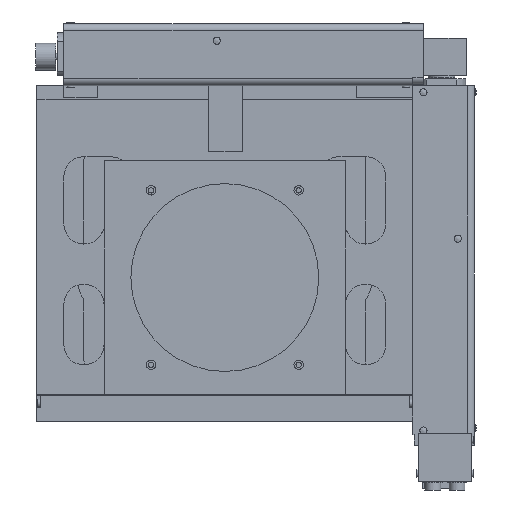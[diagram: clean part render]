
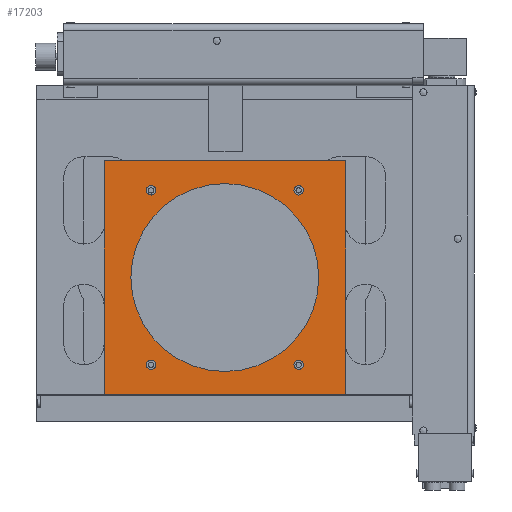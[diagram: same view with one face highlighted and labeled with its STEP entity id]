
A CAD part, front view. The second image highlights one B-rep face of the part: STEP entity #17203.
In plain terms, the highlighted planar face has unit normal (0, -1, 0).
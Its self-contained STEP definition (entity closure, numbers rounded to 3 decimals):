
#34 = AXIS2_PLACEMENT_3D ( 'NONE', #7744, #3295, #18833 ) ;
#526 = LINE ( 'NONE', #2176, #10187 ) ;
#615 = EDGE_CURVE ( 'NONE', #12475, #10850, #18296, .T. ) ;
#752 = EDGE_CURVE ( 'NONE', #5032, #15883, #8361, .T. ) ;
#755 = CARTESIAN_POINT ( 'NONE',  ( -55., -12., 68.5 ) ) ;
#880 = VERTEX_POINT ( 'NONE', #11181 ) ;
#1121 = EDGE_CURVE ( 'NONE', #1151, #14750, #20298, .T. ) ;
#1151 = VERTEX_POINT ( 'NONE', #18530 ) ;
#1190 = ORIENTED_EDGE ( 'NONE', *, *, #19385, .T. ) ;
#1294 = CARTESIAN_POINT ( 'NONE',  ( -55., -12., 61.5 ) ) ;
#1303 = CARTESIAN_POINT ( 'NONE',  ( 90., -12., 87. ) ) ;
#1354 = PLANE ( 'NONE',  #18487 ) ;
#1406 = DIRECTION ( 'NONE',  ( 0., 0., 1. ) ) ;
#1530 = ORIENTED_EDGE ( 'NONE', *, *, #4396, .T. ) ;
#1535 = DIRECTION ( 'NONE',  ( 0., 0., 1. ) ) ;
#1616 = CARTESIAN_POINT ( 'NONE',  ( 55., -12., -68.5 ) ) ;
#1681 = CARTESIAN_POINT ( 'NONE',  ( 0., -12., 0. ) ) ;
#1691 = CIRCLE ( 'NONE', #34, 3.5 ) ;
#1718 = VERTEX_POINT ( 'NONE', #10788 ) ;
#1849 = EDGE_CURVE ( 'NONE', #10596, #15678, #17431, .T. ) ;
#1875 = DIRECTION ( 'NONE',  ( 0., 1., 0. ) ) ;
#2004 = ORIENTED_EDGE ( 'NONE', *, *, #752, .T. ) ;
#2154 = ORIENTED_EDGE ( 'NONE', *, *, #13583, .F. ) ;
#2176 = CARTESIAN_POINT ( 'NONE',  ( -90., -12., 87. ) ) ;
#2370 = VERTEX_POINT ( 'NONE', #1294 ) ;
#2395 = CARTESIAN_POINT ( 'NONE',  ( 55., -12., 61.5 ) ) ;
#2499 = VECTOR ( 'NONE', #7610, 1000. ) ;
#2564 = LINE ( 'NONE', #19860, #8863 ) ;
#2745 = VERTEX_POINT ( 'NONE', #755 ) ;
#2750 = CARTESIAN_POINT ( 'NONE',  ( -55., -12., -65. ) ) ;
#3096 = DIRECTION ( 'NONE',  ( 0., 1., 0. ) ) ;
#3295 = DIRECTION ( 'NONE',  ( 0., 1., 0. ) ) ;
#3559 = DIRECTION ( 'NONE',  ( 0., 1., 0. ) ) ;
#3662 = VECTOR ( 'NONE', #6108, 1000. ) ;
#3719 = ORIENTED_EDGE ( 'NONE', *, *, #4980, .T. ) ;
#4091 = AXIS2_PLACEMENT_3D ( 'NONE', #18104, #10662, #16555 ) ;
#4184 = DIRECTION ( 'NONE',  ( 0., 1., 0. ) ) ;
#4316 = CARTESIAN_POINT ( 'NONE',  ( 0., -12., 0. ) ) ;
#4396 = EDGE_CURVE ( 'NONE', #2745, #2370, #18241, .T. ) ;
#4446 = CARTESIAN_POINT ( 'NONE',  ( -90., -12., -87. ) ) ;
#4760 = CARTESIAN_POINT ( 'NONE',  ( -90., -12., 87. ) ) ;
#4980 = EDGE_CURVE ( 'NONE', #10850, #12475, #5018, .T. ) ;
#5018 = CIRCLE ( 'NONE', #15605, 3.5 ) ;
#5032 = VERTEX_POINT ( 'NONE', #8363 ) ;
#5055 = EDGE_LOOP ( 'NONE', ( #13689, #2004 ) ) ;
#5132 = ORIENTED_EDGE ( 'NONE', *, *, #615, .T. ) ;
#5269 = EDGE_CURVE ( 'NONE', #15678, #10596, #10302, .T. ) ;
#5860 = DIRECTION ( 'NONE',  ( 0., 1., 0. ) ) ;
#6108 = DIRECTION ( 'NONE',  ( 0., 0., 1. ) ) ;
#6833 = DIRECTION ( 'NONE',  ( 1., 0., 0. ) ) ;
#6949 = DIRECTION ( 'NONE',  ( 0., 0., 1. ) ) ;
#7459 = CIRCLE ( 'NONE', #9773, 3.5 ) ;
#7610 = DIRECTION ( 'NONE',  ( 0., 0., -1. ) ) ;
#7702 = ORIENTED_EDGE ( 'NONE', *, *, #5269, .T. ) ;
#7744 = CARTESIAN_POINT ( 'NONE',  ( -55., -12., 65. ) ) ;
#7749 = DIRECTION ( 'NONE',  ( 0., 0., 1. ) ) ;
#7944 = AXIS2_PLACEMENT_3D ( 'NONE', #1681, #1875, #7989 ) ;
#7989 = DIRECTION ( 'NONE',  ( 0., 0., 1. ) ) ;
#8042 = AXIS2_PLACEMENT_3D ( 'NONE', #4316, #5860, #20047 ) ;
#8315 = AXIS2_PLACEMENT_3D ( 'NONE', #10962, #3096, #7749 ) ;
#8361 = CIRCLE ( 'NONE', #8042, 70. ) ;
#8363 = CARTESIAN_POINT ( 'NONE',  ( 0., -12., 70. ) ) ;
#8468 = ORIENTED_EDGE ( 'NONE', *, *, #10622, .F. ) ;
#8589 = CIRCLE ( 'NONE', #7944, 70. ) ;
#8863 = VECTOR ( 'NONE', #10652, 1000. ) ;
#8876 = EDGE_LOOP ( 'NONE', ( #8468, #2154, #19442, #18476 ) ) ;
#8976 = DIRECTION ( 'NONE',  ( 0., 0., 1. ) ) ;
#9000 = FACE_BOUND ( 'NONE', #17966, .T. ) ;
#9322 = LINE ( 'NONE', #4760, #3662 ) ;
#9326 = AXIS2_PLACEMENT_3D ( 'NONE', #18907, #3559, #19499 ) ;
#9773 = AXIS2_PLACEMENT_3D ( 'NONE', #2750, #4184, #1406 ) ;
#10187 = VECTOR ( 'NONE', #6833, 1000. ) ;
#10302 = CIRCLE ( 'NONE', #8315, 3.5 ) ;
#10345 = EDGE_CURVE ( 'NONE', #15883, #5032, #8589, .T. ) ;
#10446 = FACE_BOUND ( 'NONE', #11702, .T. ) ;
#10596 = VERTEX_POINT ( 'NONE', #17289 ) ;
#10622 = EDGE_CURVE ( 'NONE', #1718, #880, #9322, .T. ) ;
#10652 = DIRECTION ( 'NONE',  ( -1., 0., 0. ) ) ;
#10662 = DIRECTION ( 'NONE',  ( 0., 1., 0. ) ) ;
#10738 = EDGE_CURVE ( 'NONE', #2370, #2745, #1691, .T. ) ;
#10788 = CARTESIAN_POINT ( 'NONE',  ( -90., -12., -87. ) ) ;
#10850 = VERTEX_POINT ( 'NONE', #11048 ) ;
#10867 = DIRECTION ( 'NONE',  ( 0., -1., 0. ) ) ;
#10962 = CARTESIAN_POINT ( 'NONE',  ( 55., -12., 65. ) ) ;
#11048 = CARTESIAN_POINT ( 'NONE',  ( 55., -12., -61.5 ) ) ;
#11181 = CARTESIAN_POINT ( 'NONE',  ( -90., -12., 87. ) ) ;
#11469 = EDGE_CURVE ( 'NONE', #880, #11597, #526, .T. ) ;
#11597 = VERTEX_POINT ( 'NONE', #12122 ) ;
#11702 = EDGE_LOOP ( 'NONE', ( #15765, #7702 ) ) ;
#11704 = CARTESIAN_POINT ( 'NONE',  ( 55., -12., -65. ) ) ;
#11809 = AXIS2_PLACEMENT_3D ( 'NONE', #13427, #16950, #8976 ) ;
#12104 = ORIENTED_EDGE ( 'NONE', *, *, #10738, .T. ) ;
#12122 = CARTESIAN_POINT ( 'NONE',  ( 90., -12., 87. ) ) ;
#12327 = CARTESIAN_POINT ( 'NONE',  ( 90., -12., -87. ) ) ;
#12475 = VERTEX_POINT ( 'NONE', #1616 ) ;
#12543 = CARTESIAN_POINT ( 'NONE',  ( 0., -12., -70. ) ) ;
#13092 = VERTEX_POINT ( 'NONE', #12327 ) ;
#13427 = CARTESIAN_POINT ( 'NONE',  ( 55., -12., 65. ) ) ;
#13583 = EDGE_CURVE ( 'NONE', #13092, #1718, #2564, .T. ) ;
#13660 = FACE_BOUND ( 'NONE', #15604, .T. ) ;
#13689 = ORIENTED_EDGE ( 'NONE', *, *, #10345, .T. ) ;
#13766 = FACE_BOUND ( 'NONE', #5055, .T. ) ;
#14030 = LINE ( 'NONE', #1303, #2499 ) ;
#14269 = CARTESIAN_POINT ( 'NONE',  ( -55., -12., -61.5 ) ) ;
#14750 = VERTEX_POINT ( 'NONE', #14269 ) ;
#15324 = AXIS2_PLACEMENT_3D ( 'NONE', #19022, #15616, #1535 ) ;
#15604 = EDGE_LOOP ( 'NONE', ( #1530, #12104 ) ) ;
#15605 = AXIS2_PLACEMENT_3D ( 'NONE', #11704, #19472, #6949 ) ;
#15616 = DIRECTION ( 'NONE',  ( 0., 1., 0. ) ) ;
#15678 = VERTEX_POINT ( 'NONE', #2395 ) ;
#15765 = ORIENTED_EDGE ( 'NONE', *, *, #1849, .T. ) ;
#15883 = VERTEX_POINT ( 'NONE', #12543 ) ;
#16555 = DIRECTION ( 'NONE',  ( 0., 0., 1. ) ) ;
#16950 = DIRECTION ( 'NONE',  ( 0., 1., 0. ) ) ;
#17179 = DIRECTION ( 'NONE',  ( 0., 0., -1. ) ) ;
#17203 = ADVANCED_FACE ( 'NONE', ( #18738, #9000, #13660, #10446, #13766, #19976 ), #1354, .T. ) ;
#17289 = CARTESIAN_POINT ( 'NONE',  ( 55., -12., 68.5 ) ) ;
#17431 = CIRCLE ( 'NONE', #11809, 3.5 ) ;
#17966 = EDGE_LOOP ( 'NONE', ( #1190, #19411 ) ) ;
#18104 = CARTESIAN_POINT ( 'NONE',  ( -55., -12., -65. ) ) ;
#18241 = CIRCLE ( 'NONE', #9326, 3.5 ) ;
#18296 = CIRCLE ( 'NONE', #15324, 3.5 ) ;
#18476 = ORIENTED_EDGE ( 'NONE', *, *, #11469, .F. ) ;
#18487 = AXIS2_PLACEMENT_3D ( 'NONE', #4446, #10867, #17179 ) ;
#18530 = CARTESIAN_POINT ( 'NONE',  ( -55., -12., -68.5 ) ) ;
#18738 = FACE_BOUND ( 'NONE', #19855, .T. ) ;
#18833 = DIRECTION ( 'NONE',  ( 0., 0., 1. ) ) ;
#18907 = CARTESIAN_POINT ( 'NONE',  ( -55., -12., 65. ) ) ;
#19022 = CARTESIAN_POINT ( 'NONE',  ( 55., -12., -65. ) ) ;
#19385 = EDGE_CURVE ( 'NONE', #14750, #1151, #7459, .T. ) ;
#19411 = ORIENTED_EDGE ( 'NONE', *, *, #1121, .T. ) ;
#19442 = ORIENTED_EDGE ( 'NONE', *, *, #19459, .F. ) ;
#19459 = EDGE_CURVE ( 'NONE', #11597, #13092, #14030, .T. ) ;
#19472 = DIRECTION ( 'NONE',  ( 0., 1., 0. ) ) ;
#19499 = DIRECTION ( 'NONE',  ( 0., 0., 1. ) ) ;
#19855 = EDGE_LOOP ( 'NONE', ( #3719, #5132 ) ) ;
#19860 = CARTESIAN_POINT ( 'NONE',  ( -90., -12., -87. ) ) ;
#19976 = FACE_OUTER_BOUND ( 'NONE', #8876, .T. ) ;
#20047 = DIRECTION ( 'NONE',  ( 0., 0., 1. ) ) ;
#20298 = CIRCLE ( 'NONE', #4091, 3.5 ) ;
